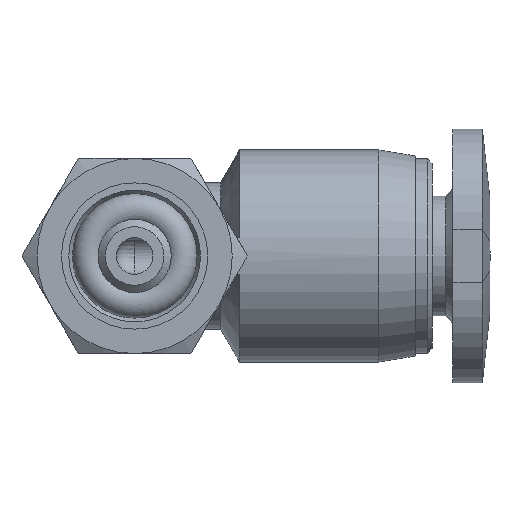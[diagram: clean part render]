
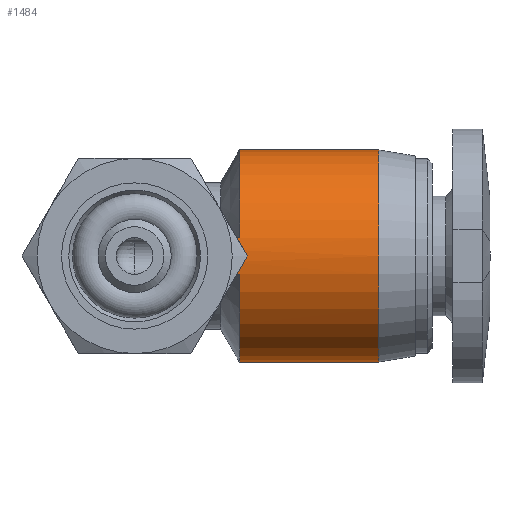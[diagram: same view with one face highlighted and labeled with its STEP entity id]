
A CAD part, front view. The second image highlights one B-rep face of the part: STEP entity #1484.
In plain terms, the highlighted cylindrical face has radius 4.35 mm (diameter 8.7 mm), a full revolution.
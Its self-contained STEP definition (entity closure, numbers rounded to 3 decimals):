
#311=CARTESIAN_POINT('',(4.3,9.135,-0.75));
#312=VERTEX_POINT('',#311);
#368=CARTESIAN_POINT('',(4.3,9.135,0.75));
#369=VERTEX_POINT('',#368);
#387=CARTESIAN_POINT('',(4.3,9.2,0.0));
#388=VERTEX_POINT('',#387);
#389=CARTESIAN_POINT('',(4.3,4.85,0.0));
#390=DIRECTION('',(1.0,0.,0.0));
#391=DIRECTION('',(0.,1.0,0.0));
#392=AXIS2_PLACEMENT_3D('',#389,#390,#391);
#393=CIRCLE('',#392,4.35);
#394=EDGE_CURVE('',#388,#369,#393,.T.);
#396=CARTESIAN_POINT('',(4.3,4.85,0.0));
#397=DIRECTION('',(1.0,0.,0.0));
#398=DIRECTION('',(0.,1.0,0.0));
#399=AXIS2_PLACEMENT_3D('',#396,#397,#398);
#400=CIRCLE('',#399,4.35);
#401=EDGE_CURVE('',#312,#388,#400,.T.);
#1306=CARTESIAN_POINT('',(4.3,0.565,-0.75));
#1307=VERTEX_POINT('',#1306);
#1323=CARTESIAN_POINT('',(3.929,0.565,-0.75));
#1324=VERTEX_POINT('',#1323);
#1325=CARTESIAN_POINT('',(4.3,0.565,-0.75));
#1326=DIRECTION('',(-1.0,0.0,0.0));
#1327=VECTOR('',#1326,0.371);
#1328=LINE('',#1325,#1327);
#1329=EDGE_CURVE('',#1307,#1324,#1328,.T.);
#1378=CARTESIAN_POINT('',(4.3,0.565,0.75));
#1379=VERTEX_POINT('',#1378);
#1424=CARTESIAN_POINT('',(3.929,0.565,0.75));
#1425=VERTEX_POINT('',#1424);
#1432=CARTESIAN_POINT('',(4.3,0.565,0.75));
#1433=DIRECTION('',(-1.0,0.0,0.0));
#1434=VECTOR('',#1433,0.371);
#1435=LINE('',#1432,#1434);
#1436=EDGE_CURVE('',#1379,#1425,#1435,.T.);
#1441=CARTESIAN_POINT('',(4.3,4.85,0.0));
#1442=DIRECTION('',(-1.0,0.0,0.0));
#1443=DIRECTION('',(0.0,-0.985,0.172));
#1444=AXIS2_PLACEMENT_3D('',#1441,#1442,#1443);
#1445=CYLINDRICAL_SURFACE('',#1444,4.35);
#1446=CARTESIAN_POINT('',(10.,9.2,0.0));
#1447=VERTEX_POINT('',#1446);
#1448=CARTESIAN_POINT('',(10.,4.85,0.0));
#1449=DIRECTION('',(1.0,0.,0.0));
#1450=DIRECTION('',(0.,1.0,0.0));
#1451=AXIS2_PLACEMENT_3D('',#1448,#1449,#1450);
#1452=CIRCLE('',#1451,4.35);
#1453=EDGE_CURVE('',#1447,#1447,#1452,.T.);
#1454=ORIENTED_EDGE('',*,*,#1453,.F.);
#1455=EDGE_LOOP('',(#1454));
#1456=FACE_OUTER_BOUND('',#1455,.T.);
#1457=CARTESIAN_POINT('',(3.929,0.565,-0.75));
#1458=CARTESIAN_POINT('',(4.024,0.478,-0.255));
#1459=CARTESIAN_POINT('',(4.024,0.478,0.255));
#1460=CARTESIAN_POINT('',(3.929,0.565,0.75));
#1461=B_SPLINE_CURVE_WITH_KNOTS('',3,(#1457,#1458,#1459,#1460),.UNSPECIFIED.,.F.,.U.,(4,4),(0.606,0.756),.UNSPECIFIED.);
#1462=EDGE_CURVE('',#1324,#1425,#1461,.T.);
#1463=ORIENTED_EDGE('',*,*,#1462,.F.);
#1464=ORIENTED_EDGE('',*,*,#1329,.F.);
#1465=CARTESIAN_POINT('',(4.3,4.85,0.0));
#1466=DIRECTION('',(1.0,0.,0.0));
#1467=DIRECTION('',(0.,1.0,0.0));
#1468=AXIS2_PLACEMENT_3D('',#1465,#1466,#1467);
#1469=CIRCLE('',#1468,4.35);
#1470=EDGE_CURVE('',#1307,#312,#1469,.T.);
#1471=ORIENTED_EDGE('',*,*,#1470,.T.);
#1472=ORIENTED_EDGE('',*,*,#401,.T.);
#1473=ORIENTED_EDGE('',*,*,#394,.T.);
#1474=CARTESIAN_POINT('',(4.3,4.85,0.0));
#1475=DIRECTION('',(1.0,0.,0.0));
#1476=DIRECTION('',(0.,1.0,0.0));
#1477=AXIS2_PLACEMENT_3D('',#1474,#1475,#1476);
#1478=CIRCLE('',#1477,4.35);
#1479=EDGE_CURVE('',#369,#1379,#1478,.T.);
#1480=ORIENTED_EDGE('',*,*,#1479,.T.);
#1481=ORIENTED_EDGE('',*,*,#1436,.T.);
#1482=EDGE_LOOP('',(#1463,#1464,#1471,#1472,#1473,#1480,#1481));
#1483=FACE_BOUND('',#1482,.T.);
#1484=ADVANCED_FACE('',(#1456,#1483),#1445,.T.);
